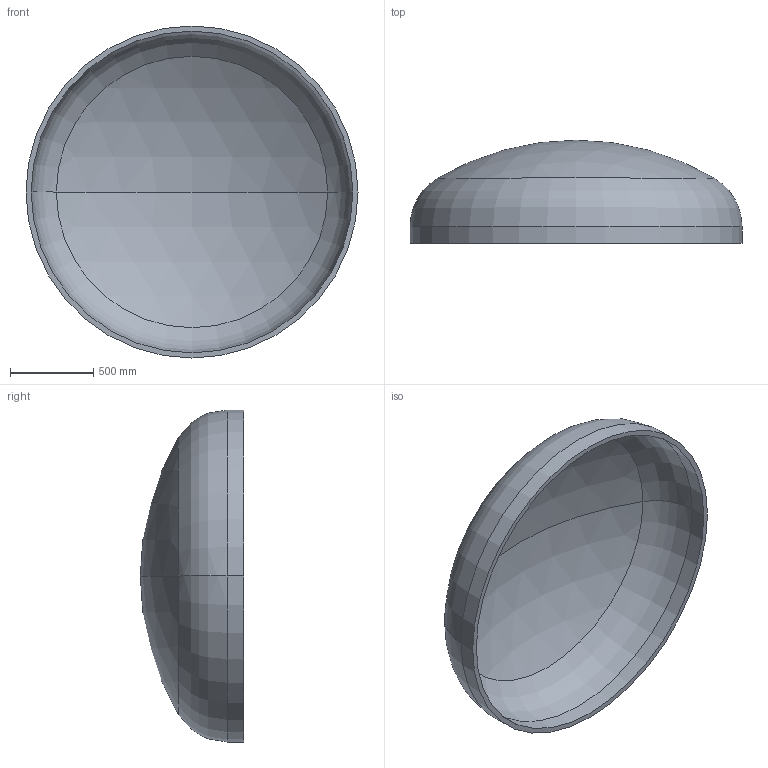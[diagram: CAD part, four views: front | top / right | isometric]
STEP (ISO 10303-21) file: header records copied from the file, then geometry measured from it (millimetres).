
FILE_DESCRIPTION (( 'STEP AP203' ), '1' );
FILE_NAME ('DIN 28013 Korbbogenform_-_Boden DIN 28013 - 2000 x 100 - I - s=31.step', '2016-07-01T13:46:47', ( '' ), ( '' ), 'SwSTEP 2.0', 'SolidWorks 2013', '' );
FILE_SCHEMA (( 'CONFIG_CONTROL_DESIGN' ));
Length unit declared in the file: millimetre
Products named in the file (1): DIN 28013 Korbbogenform_-_Boden DIN 28013 - 2000 x 100 - I - s=31
Bounding box: 2000 x 622.03 x 2000 mm (x, y, z)
Volume: 151496157 mm3; surface area: 9967714.7 mm2
Topology: 1 solids, 1 shells, 13 faces, 24 edges, 14 vertices
Faces by surface type: torus 4, cylinder 4, sphere 4, plane 1
Entity records: 407 total; most frequent: DIRECTION 72, CARTESIAN_POINT 52, ORIENTED_EDGE 48, AXIS2_PLACEMENT_3D 34, EDGE_CURVE 24, CIRCLE 20, EDGE_LOOP 14, VERTEX_POINT 14
